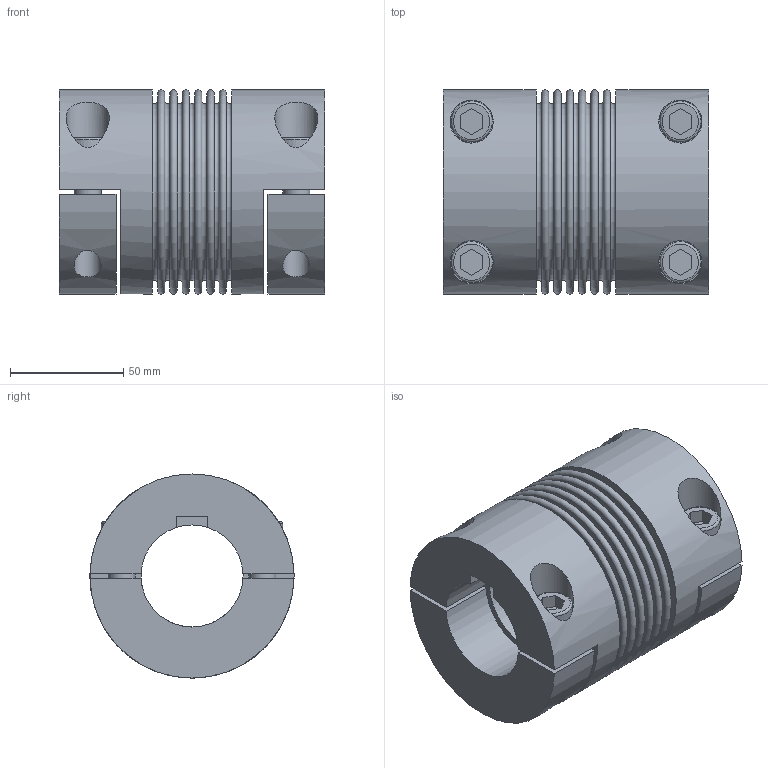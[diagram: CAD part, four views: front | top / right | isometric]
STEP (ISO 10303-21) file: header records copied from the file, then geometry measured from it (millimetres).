
FILE_DESCRIPTION(/* description */ ('STEP AP214'),/* implementation_level */ '2;1');
FILE_NAME(/* name */ 'C:\Diequa Files\DieQua Coupling\BCS\STP\BCS.200.117.#.#.stp',/* time_stamp */ '2018-11-15T09:42:29-06:00',/* author */ ('DiequaCAD'),/* organization */ (''),/* preprocessor_version */ 'ST-DEVELOPER v17.2',/* originating_system */ 'Autodesk Inventor 2019',/* authorisation */ ' ');
FILE_SCHEMA (('AUTOMOTIVE_DESIGN { 1 0 10303 214 3 1 1 }'));
Length unit declared in the file: millimetre
Products named in the file (1): BKH_200_117_45_PFN_45_PFN_25
Bounding box: 117 x 90 x 90 mm (x, y, z)
Volume: 495027.4 mm3; surface area: 99365.6 mm2
Topology: 1 solids, 1 shells, 118 faces, 280 edges, 196 vertices
Faces by surface type: plane 78, cylinder 23, torus 17
Full cylindrical faces by diameter (mm): 12 x8, 18 x4, 19 x4, 45 x1, 90 x2
Entity records: 3833 total; most frequent: CARTESIAN_POINT 897, DIRECTION 631, ORIENTED_EDGE 560, EDGE_CURVE 280, AXIS2_PLACEMENT_3D 244, VERTEX_POINT 196, EDGE_LOOP 156, LINE 143
